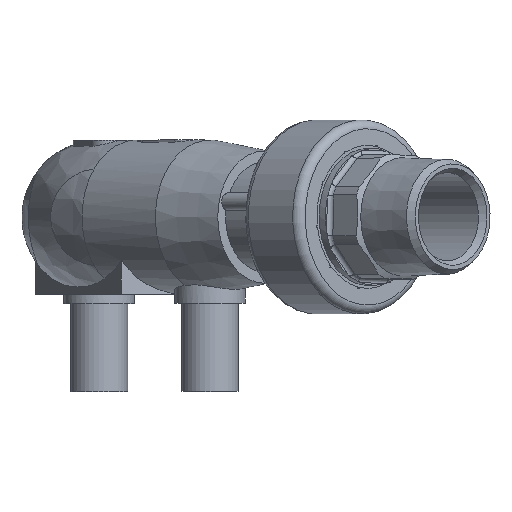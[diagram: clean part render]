
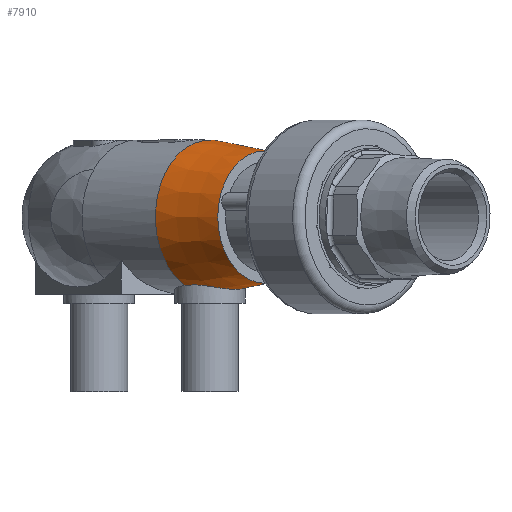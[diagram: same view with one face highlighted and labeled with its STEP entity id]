
A CAD part, top view. The second image highlights one B-rep face of the part: STEP entity #7910.
In plain terms, the highlighted conical face has half-angle 8.13 degrees and reference radius 15 mm.
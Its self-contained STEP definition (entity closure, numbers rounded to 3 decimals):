
#99=CONICAL_SURFACE('',#10029,15.,0.142);
#951=CIRCLE('',#9998,17.5);
#956=CIRCLE('',#10011,15.);
#1492=ORIENTED_EDGE('',*,*,#4005,.F.);
#1493=ORIENTED_EDGE('',*,*,#3951,.T.);
#1494=ORIENTED_EDGE('',*,*,#3982,.F.);
#3951=EDGE_CURVE('',#5222,#5223,#951,.T.);
#3982=EDGE_CURVE('',#5249,#5249,#956,.T.);
#4005=EDGE_CURVE('',#5222,#5223,#6083,.T.);
#5222=VERTEX_POINT('',#13342);
#5223=VERTEX_POINT('',#13343);
#5249=VERTEX_POINT('',#13683);
#6083=B_SPLINE_CURVE_WITH_KNOTS('',3,(#14373,#14374,#14375,#14376,#14377,
#14378,#14379,#14380,#14381,#14382,#14383),.UNSPECIFIED.,.F.,.F.,(4,1,1,
1,1,1,1,1,4),(0.007,0.01,0.013,
0.016,0.019,0.023,0.026,
0.029,0.032),.UNSPECIFIED.);
#6688=EDGE_LOOP('',(#1492,#1493));
#6689=EDGE_LOOP('',(#1494));
#7283=FACE_BOUND('',#6688,.T.);
#7284=FACE_BOUND('',#6689,.T.);
#7910=ADVANCED_FACE('',(#7283,#7284),#99,.T.);
#9998=AXIS2_PLACEMENT_3D('',#13341,#10910,#10911);
#10011=AXIS2_PLACEMENT_3D('',#13682,#10942,#10943);
#10029=AXIS2_PLACEMENT_3D('',#14372,#10978,#10979);
#10910=DIRECTION('',(0.707,0.,0.707));
#10911=DIRECTION('',(0.707,0.,-0.707));
#10942=DIRECTION('',(0.707,0.,0.707));
#10943=DIRECTION('',(0.707,0.,-0.707));
#10978=DIRECTION('',(-0.707,0.,-0.707));
#10979=DIRECTION('',(-0.707,0.,0.707));
#13341=CARTESIAN_POINT('',(25.102,0.,25.102));
#13342=CARTESIAN_POINT('',(30.759,-15.564,19.445));
#13343=CARTESIAN_POINT('',(19.445,-15.564,30.759));
#13682=CARTESIAN_POINT('',(37.477,0.,37.477));
#13683=CARTESIAN_POINT('',(48.083,0.,26.87));
#14372=CARTESIAN_POINT('',(37.477,0.,37.477));
#14373=CARTESIAN_POINT('',(30.759,-15.564,19.445));
#14374=CARTESIAN_POINT('',(31.49,-15.398,20.176));
#14375=CARTESIAN_POINT('',(32.691,-15.283,21.965));
#14376=CARTESIAN_POINT('',(33.308,-15.685,25.109));
#14377=CARTESIAN_POINT('',(32.691,-16.203,28.228));
#14378=CARTESIAN_POINT('',(30.909,-16.434,30.91));
#14379=CARTESIAN_POINT('',(28.226,-16.203,32.692));
#14380=CARTESIAN_POINT('',(25.11,-15.685,33.307));
#14381=CARTESIAN_POINT('',(21.972,-15.284,32.692));
#14382=CARTESIAN_POINT('',(20.186,-15.396,31.5));
#14383=CARTESIAN_POINT('',(19.445,-15.564,30.759));
